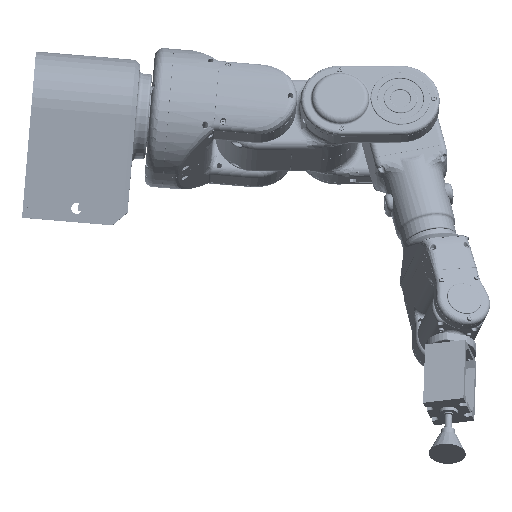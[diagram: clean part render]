
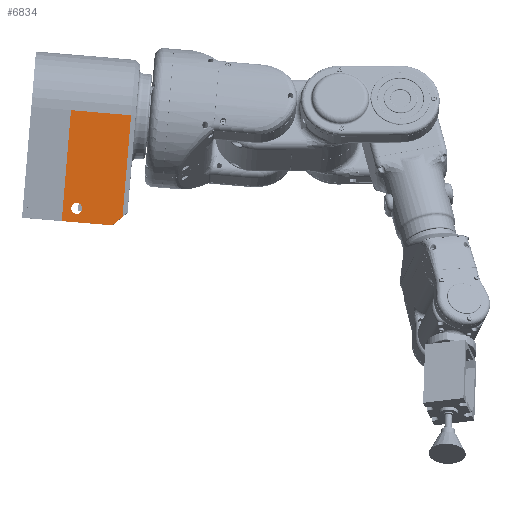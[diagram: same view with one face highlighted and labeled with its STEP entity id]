
A CAD part, top view. The second image highlights one B-rep face of the part: STEP entity #6834.
In plain terms, the highlighted planar face has unit normal (-0.001, -0.001, 1).
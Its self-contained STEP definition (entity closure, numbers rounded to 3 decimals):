
#272 = CYLINDRICAL_SURFACE('',#273,60.);
#273 = AXIS2_PLACEMENT_3D('',#274,#275,#276);
#274 = CARTESIAN_POINT('',(-131.52,149.281,-116.362
    ));
#275 = DIRECTION('',(-0.996,0.084,
    -0.001));
#276 = DIRECTION('',(0.001,0.001,
    -1.));
#744 = VERTEX_POINT('',#745);
#745 = CARTESIAN_POINT('',(-194.659,55.18,
    -56.492));
#754 = CYLINDRICAL_SURFACE('',#755,6.);
#755 = AXIS2_PLACEMENT_3D('',#756,#757,#758);
#756 = CARTESIAN_POINT('',(-195.208,49.158,
    -2.497));
#757 = DIRECTION('',(0.001,0.001,
    -1.));
#758 = DIRECTION('',(0.084,0.996,
    0.001));
#766 = CYLINDRICAL_SURFACE('',#767,6.);
#767 = AXIS2_PLACEMENT_3D('',#768,#769,#770);
#768 = CARTESIAN_POINT('',(-195.208,49.158,
    -2.497));
#769 = DIRECTION('',(0.001,0.001,
    -1.));
#770 = DIRECTION('',(0.084,0.996,
    0.001));
#808 = VERTEX_POINT('',#809);
#809 = CARTESIAN_POINT('',(-195.663,43.222,
    -56.502));
#830 = EDGE_CURVE('',#808,#744,#831,.T.);
#831 = SURFACE_CURVE('',#832,(#837,#844),.PCURVE_S1.);
#832 = CIRCLE('',#833,6.);
#833 = AXIS2_PLACEMENT_3D('',#834,#835,#836);
#834 = CARTESIAN_POINT('',(-195.161,49.201,
    -56.497));
#835 = DIRECTION('',(0.001,0.001,
    -1.));
#836 = DIRECTION('',(0.084,0.996,
    0.001));
#837 = PCURVE('',#754,#838);
#838 = DEFINITIONAL_REPRESENTATION('',(#839),#843);
#839 = LINE('',#840,#841);
#840 = CARTESIAN_POINT('',(0.,54.));
#841 = VECTOR('',#842,1.);
#842 = DIRECTION('',(1.,0.));
#843 = ( GEOMETRIC_REPRESENTATION_CONTEXT(2) 
PARAMETRIC_REPRESENTATION_CONTEXT() REPRESENTATION_CONTEXT('2D SPACE',''
  ) );
#844 = PCURVE('',#845,#850);
#845 = PLANE('',#846);
#846 = AXIS2_PLACEMENT_3D('',#847,#848,#849);
#847 = CARTESIAN_POINT('',(-126.554,209.023,
    -56.31));
#848 = DIRECTION('',(0.001,0.001,
    -1.));
#849 = DIRECTION('',(0.084,0.996,
    0.001));
#850 = DEFINITIONAL_REPRESENTATION('',(#851),#855);
#851 = CIRCLE('',#852,6.);
#852 = AXIS2_PLACEMENT_2D('',#853,#854);
#853 = CARTESIAN_POINT('',(-165.,-55.));
#854 = DIRECTION('',(1.,0.));
#855 = ( GEOMETRIC_REPRESENTATION_CONTEXT(2) 
PARAMETRIC_REPRESENTATION_CONTEXT() REPRESENTATION_CONTEXT('2D SPACE',''
  ) );
#912 = PLANE('',#913);
#913 = AXIS2_PLACEMENT_3D('',#914,#915,#916);
#914 = CARTESIAN_POINT('',(-141.504,29.749,
    -176.466));
#915 = DIRECTION('',(0.084,0.996,
    0.001));
#916 = DIRECTION('',(-0.001,-0.001,
    1.));
#2421 = PLANE('',#2422);
#2422 = AXIS2_PLACEMENT_3D('',#2423,#2424,#2425);
#2423 = CARTESIAN_POINT('',(-201.205,155.669,
    -147.328));
#2424 = DIRECTION('',(0.996,-0.084,
    0.001));
#2425 = DIRECTION('',(-0.001,-0.001,
    1.));
#6608 = VERTEX_POINT('',#6609);
#6609 = CARTESIAN_POINT('',(-201.327,155.088,
    -56.418));
#6689 = VERTEX_POINT('',#6690);
#6690 = CARTESIAN_POINT('',(-211.363,35.508,
    -56.522));
#6711 = EDGE_CURVE('',#6608,#6689,#6712,.T.);
#6712 = SURFACE_CURVE('',#6713,(#6717,#6724),.PCURVE_S1.);
#6713 = LINE('',#6714,#6715);
#6714 = CARTESIAN_POINT('',(-196.308,214.878,
    -56.366));
#6715 = VECTOR('',#6716,1.);
#6716 = DIRECTION('',(-0.084,-0.996,
    -0.001));
#6717 = PCURVE('',#2421,#6718);
#6718 = DEFINITIONAL_REPRESENTATION('',(#6719),#6723);
#6719 = LINE('',#6720,#6721);
#6720 = CARTESIAN_POINT('',(90.911,-59.49));
#6721 = VECTOR('',#6722,1.);
#6722 = DIRECTION('',(0.,1.));
#6723 = ( GEOMETRIC_REPRESENTATION_CONTEXT(2) 
PARAMETRIC_REPRESENTATION_CONTEXT() REPRESENTATION_CONTEXT('2D SPACE',''
  ) );
#6724 = PCURVE('',#845,#6725);
#6725 = DEFINITIONAL_REPRESENTATION('',(#6726),#6730);
#6726 = LINE('',#6727,#6728);
#6727 = CARTESIAN_POINT('',(0.,-70.));
#6728 = VECTOR('',#6729,1.);
#6729 = DIRECTION('',(-1.,0.));
#6730 = ( GEOMETRIC_REPRESENTATION_CONTEXT(2) 
PARAMETRIC_REPRESENTATION_CONTEXT() REPRESENTATION_CONTEXT('2D SPACE',''
  ) );
#6834 = ADVANCED_FACE('',(#6835,#6860),#845,.F.);
#6835 = FACE_BOUND('',#6836,.T.);
#6836 = EDGE_LOOP('',(#6837,#6859));
#6837 = ORIENTED_EDGE('',*,*,#6838,.T.);
#6838 = EDGE_CURVE('',#744,#808,#6839,.T.);
#6839 = SURFACE_CURVE('',#6840,(#6845,#6852),.PCURVE_S1.);
#6840 = CIRCLE('',#6841,6.);
#6841 = AXIS2_PLACEMENT_3D('',#6842,#6843,#6844);
#6842 = CARTESIAN_POINT('',(-195.161,49.201,
    -56.497));
#6843 = DIRECTION('',(0.001,0.001,
    -1.));
#6844 = DIRECTION('',(0.084,0.996,
    0.001));
#6845 = PCURVE('',#845,#6846);
#6846 = DEFINITIONAL_REPRESENTATION('',(#6847),#6851);
#6847 = CIRCLE('',#6848,6.);
#6848 = AXIS2_PLACEMENT_2D('',#6849,#6850);
#6849 = CARTESIAN_POINT('',(-165.,-55.));
#6850 = DIRECTION('',(1.,0.));
#6851 = ( GEOMETRIC_REPRESENTATION_CONTEXT(2) 
PARAMETRIC_REPRESENTATION_CONTEXT() REPRESENTATION_CONTEXT('2D SPACE',''
  ) );
#6852 = PCURVE('',#766,#6853);
#6853 = DEFINITIONAL_REPRESENTATION('',(#6854),#6858);
#6854 = LINE('',#6855,#6856);
#6855 = CARTESIAN_POINT('',(0.,54.));
#6856 = VECTOR('',#6857,1.);
#6857 = DIRECTION('',(1.,0.));
#6858 = ( GEOMETRIC_REPRESENTATION_CONTEXT(2) 
PARAMETRIC_REPRESENTATION_CONTEXT() REPRESENTATION_CONTEXT('2D SPACE',''
  ) );
#6859 = ORIENTED_EDGE('',*,*,#830,.T.);
#6860 = FACE_BOUND('',#6861,.T.);
#6861 = EDGE_LOOP('',(#6862,#6892,#6920,#6941,#6942));
#6862 = ORIENTED_EDGE('',*,*,#6863,.F.);
#6863 = EDGE_CURVE('',#6864,#6866,#6868,.T.);
#6864 = VERTEX_POINT('',#6865);
#6865 = CARTESIAN_POINT('',(-145.754,40.037,
    -56.461));
#6866 = VERTEX_POINT('',#6867);
#6867 = CARTESIAN_POINT('',(-156.556,30.908,
    -56.478));
#6868 = SURFACE_CURVE('',#6869,(#6873,#6880),.PCURVE_S1.);
#6869 = LINE('',#6870,#6871);
#6870 = CARTESIAN_POINT('',(-140.354,44.601,
    -56.453));
#6871 = VECTOR('',#6872,1.);
#6872 = DIRECTION('',(-0.764,-0.645,
    -0.001));
#6873 = PCURVE('',#845,#6874);
#6874 = DEFINITIONAL_REPRESENTATION('',(#6875),#6879);
#6875 = LINE('',#6876,#6877);
#6876 = CARTESIAN_POINT('',(-165.,0.));
#6877 = VECTOR('',#6878,1.);
#6878 = DIRECTION('',(-0.707,-0.707));
#6879 = ( GEOMETRIC_REPRESENTATION_CONTEXT(2) 
PARAMETRIC_REPRESENTATION_CONTEXT() REPRESENTATION_CONTEXT('2D SPACE',''
  ) );
#6880 = PCURVE('',#6881,#6886);
#6881 = PLANE('',#6882);
#6882 = AXIS2_PLACEMENT_3D('',#6883,#6884,#6885);
#6883 = CARTESIAN_POINT('',(-140.243,44.702,
    -183.453));
#6884 = DIRECTION('',(-0.645,0.764,0.)
  );
#6885 = DIRECTION('',(-0.764,-0.645,
    -0.001));
#6886 = DEFINITIONAL_REPRESENTATION('',(#6887),#6891);
#6887 = LINE('',#6888,#6889);
#6888 = CARTESIAN_POINT('',(0.,127.));
#6889 = VECTOR('',#6890,1.);
#6890 = DIRECTION('',(1.,0.));
#6891 = ( GEOMETRIC_REPRESENTATION_CONTEXT(2) 
PARAMETRIC_REPRESENTATION_CONTEXT() REPRESENTATION_CONTEXT('2D SPACE',''
  ) );
#6892 = ORIENTED_EDGE('',*,*,#6893,.T.);
#6893 = EDGE_CURVE('',#6864,#6894,#6896,.T.);
#6894 = VERTEX_POINT('',#6895);
#6895 = CARTESIAN_POINT('',(-136.554,149.651,
    -56.366));
#6896 = SURFACE_CURVE('',#6897,(#6901,#6908),.PCURVE_S1.);
#6897 = LINE('',#6898,#6899);
#6898 = CARTESIAN_POINT('',(-136.554,149.651,
    -56.366));
#6899 = VECTOR('',#6900,1.);
#6900 = DIRECTION('',(0.084,0.996,
    0.001));
#6901 = PCURVE('',#845,#6902);
#6902 = DEFINITIONAL_REPRESENTATION('',(#6903),#6907);
#6903 = LINE('',#6904,#6905);
#6904 = CARTESIAN_POINT('',(-60.,-5.));
#6905 = VECTOR('',#6906,1.);
#6906 = DIRECTION('',(1.,0.));
#6907 = ( GEOMETRIC_REPRESENTATION_CONTEXT(2) 
PARAMETRIC_REPRESENTATION_CONTEXT() REPRESENTATION_CONTEXT('2D SPACE',''
  ) );
#6908 = PCURVE('',#6909,#6914);
#6909 = PLANE('',#6910);
#6910 = AXIS2_PLACEMENT_3D('',#6911,#6912,#6913);
#6911 = CARTESIAN_POINT('',(-131.525,149.746,
    -61.361));
#6912 = DIRECTION('',(0.704,-0.06,0.708));
#6913 = DIRECTION('',(0.084,0.996,
    0.001));
#6914 = DEFINITIONAL_REPRESENTATION('',(#6915),#6919);
#6915 = LINE('',#6916,#6917);
#6916 = CARTESIAN_POINT('',(-0.51,7.071));
#6917 = VECTOR('',#6918,1.);
#6918 = DIRECTION('',(1.,0.));
#6919 = ( GEOMETRIC_REPRESENTATION_CONTEXT(2) 
PARAMETRIC_REPRESENTATION_CONTEXT() REPRESENTATION_CONTEXT('2D SPACE',''
  ) );
#6920 = ORIENTED_EDGE('',*,*,#6921,.T.);
#6921 = EDGE_CURVE('',#6894,#6608,#6922,.T.);
#6922 = SURFACE_CURVE('',#6923,(#6927,#6934),.PCURVE_S1.);
#6923 = LINE('',#6924,#6925);
#6924 = CARTESIAN_POINT('',(-131.572,149.233,
    -56.362));
#6925 = VECTOR('',#6926,1.);
#6926 = DIRECTION('',(-0.996,0.084,
    -0.001));
#6927 = PCURVE('',#845,#6928);
#6928 = DEFINITIONAL_REPRESENTATION('',(#6929),#6933);
#6929 = LINE('',#6930,#6931);
#6930 = CARTESIAN_POINT('',(-60.,0.));
#6931 = VECTOR('',#6932,1.);
#6932 = DIRECTION('',(0.,-1.));
#6933 = ( GEOMETRIC_REPRESENTATION_CONTEXT(2) 
PARAMETRIC_REPRESENTATION_CONTEXT() REPRESENTATION_CONTEXT('2D SPACE',''
  ) );
#6934 = PCURVE('',#272,#6935);
#6935 = DEFINITIONAL_REPRESENTATION('',(#6936),#6940);
#6936 = LINE('',#6937,#6938);
#6937 = CARTESIAN_POINT('',(3.142,0.));
#6938 = VECTOR('',#6939,1.);
#6939 = DIRECTION('',(0.,1.));
#6940 = ( GEOMETRIC_REPRESENTATION_CONTEXT(2) 
PARAMETRIC_REPRESENTATION_CONTEXT() REPRESENTATION_CONTEXT('2D SPACE',''
  ) );
#6941 = ORIENTED_EDGE('',*,*,#6711,.T.);
#6942 = ORIENTED_EDGE('',*,*,#6943,.F.);
#6943 = EDGE_CURVE('',#6866,#6689,#6944,.T.);
#6944 = SURFACE_CURVE('',#6945,(#6949,#6956),.PCURVE_S1.);
#6945 = LINE('',#6946,#6947);
#6946 = CARTESIAN_POINT('',(-141.608,29.654,
    -56.466));
#6947 = VECTOR('',#6948,1.);
#6948 = DIRECTION('',(-0.996,0.084,
    -0.001));
#6949 = PCURVE('',#845,#6950);
#6950 = DEFINITIONAL_REPRESENTATION('',(#6951),#6955);
#6951 = LINE('',#6952,#6953);
#6952 = CARTESIAN_POINT('',(-180.,0.));
#6953 = VECTOR('',#6954,1.);
#6954 = DIRECTION('',(0.,-1.));
#6955 = ( GEOMETRIC_REPRESENTATION_CONTEXT(2) 
PARAMETRIC_REPRESENTATION_CONTEXT() REPRESENTATION_CONTEXT('2D SPACE',''
  ) );
#6956 = PCURVE('',#912,#6957);
#6957 = DEFINITIONAL_REPRESENTATION('',(#6958),#6962);
#6958 = LINE('',#6959,#6960);
#6959 = CARTESIAN_POINT('',(120.,0.));
#6960 = VECTOR('',#6961,1.);
#6961 = DIRECTION('',(0.,-1.));
#6962 = ( GEOMETRIC_REPRESENTATION_CONTEXT(2) 
PARAMETRIC_REPRESENTATION_CONTEXT() REPRESENTATION_CONTEXT('2D SPACE',''
  ) );
